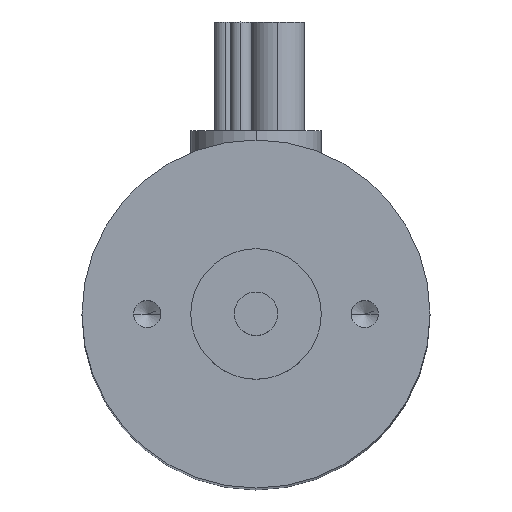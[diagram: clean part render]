
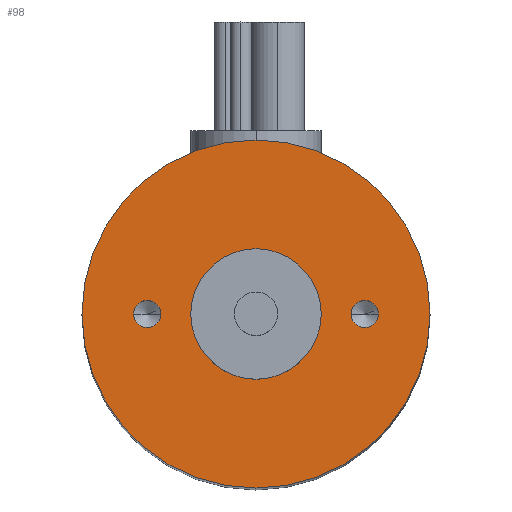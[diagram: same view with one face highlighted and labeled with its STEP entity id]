
A CAD part, top view. The second image highlights one B-rep face of the part: STEP entity #98.
In plain terms, the highlighted planar face has unit normal (0, 0, 1).
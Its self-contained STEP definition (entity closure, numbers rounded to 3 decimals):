
#15 = AXIS2_PLACEMENT_3D ( 'NONE', #662, #76, #20 ) ;
#16 = DIRECTION ( 'NONE',  ( -1., 0., 0. ) ) ;
#20 = DIRECTION ( 'NONE',  ( 1., 0., 0. ) ) ;
#23 = EDGE_LOOP ( 'NONE', ( #616, #391 ) ) ;
#31 = AXIS2_PLACEMENT_3D ( 'NONE', #776, #371, #286 ) ;
#42 = VERTEX_POINT ( 'NONE', #555 ) ;
#64 = FACE_BOUND ( 'NONE', #23, .T. ) ;
#75 = CIRCLE ( 'NONE', #350, 3. ) ;
#76 = DIRECTION ( 'NONE',  ( 0., 0., 1. ) ) ;
#79 = VERTEX_POINT ( 'NONE', #427 ) ;
#85 = VERTEX_POINT ( 'NONE', #374 ) ;
#98 = ADVANCED_FACE ( 'NONE', ( #283, #64, #763, #655 ), #638, .F. ) ;
#119 = CIRCLE ( 'NONE', #702, 8. ) ;
#127 = CARTESIAN_POINT ( 'NONE',  ( 0., 0., 0. ) ) ;
#150 = CARTESIAN_POINT ( 'NONE',  ( 8., 0., 0. ) ) ;
#167 = CARTESIAN_POINT ( 'NONE',  ( -4.375, 0., 0. ) ) ;
#170 = EDGE_CURVE ( 'NONE', #311, #497, #507, .T. ) ;
#172 = DIRECTION ( 'NONE',  ( 0., 0., 1. ) ) ;
#194 = AXIS2_PLACEMENT_3D ( 'NONE', #841, #431, #16 ) ;
#208 = ORIENTED_EDGE ( 'NONE', *, *, #700, .F. ) ;
#213 = CIRCLE ( 'NONE', #704, 0.625 ) ;
#221 = CARTESIAN_POINT ( 'NONE',  ( 4.375, 0., 0. ) ) ;
#224 = CIRCLE ( 'NONE', #15, 8. ) ;
#230 = DIRECTION ( 'NONE',  ( 0., 0., 1. ) ) ;
#261 = AXIS2_PLACEMENT_3D ( 'NONE', #478, #172, #876 ) ;
#274 = VERTEX_POINT ( 'NONE', #632 ) ;
#275 = CIRCLE ( 'NONE', #786, 3. ) ;
#279 = EDGE_LOOP ( 'NONE', ( #208, #668 ) ) ;
#281 = CARTESIAN_POINT ( 'NONE',  ( -5.625, 0., 0. ) ) ;
#283 = FACE_BOUND ( 'NONE', #556, .T. ) ;
#286 = DIRECTION ( 'NONE',  ( 1., 0., 0. ) ) ;
#288 = ORIENTED_EDGE ( 'NONE', *, *, #628, .T. ) ;
#295 = CARTESIAN_POINT ( 'NONE',  ( 0., 0., 0. ) ) ;
#304 = DIRECTION ( 'NONE',  ( 1., 0., 0. ) ) ;
#311 = VERTEX_POINT ( 'NONE', #281 ) ;
#331 = DIRECTION ( 'NONE',  ( 1., 0., 0. ) ) ;
#340 = DIRECTION ( 'NONE',  ( 0., 0., 1. ) ) ;
#350 = AXIS2_PLACEMENT_3D ( 'NONE', #295, #850, #304 ) ;
#361 = EDGE_CURVE ( 'NONE', #274, #85, #275, .T. ) ;
#365 = CARTESIAN_POINT ( 'NONE',  ( 5., 0., 0. ) ) ;
#371 = DIRECTION ( 'NONE',  ( 0., 0., 1. ) ) ;
#374 = CARTESIAN_POINT ( 'NONE',  ( 3., 0., 0. ) ) ;
#376 = AXIS2_PLACEMENT_3D ( 'NONE', #683, #599, #744 ) ;
#391 = ORIENTED_EDGE ( 'NONE', *, *, #870, .F. ) ;
#414 = EDGE_LOOP ( 'NONE', ( #288, #546 ) ) ;
#427 = CARTESIAN_POINT ( 'NONE',  ( 5.625, 0., 0. ) ) ;
#431 = DIRECTION ( 'NONE',  ( 0., 0., -1. ) ) ;
#478 = CARTESIAN_POINT ( 'NONE',  ( -5., 0., 0. ) ) ;
#497 = VERTEX_POINT ( 'NONE', #167 ) ;
#507 = CIRCLE ( 'NONE', #376, 0.625 ) ;
#538 = CIRCLE ( 'NONE', #31, 0.625 ) ;
#546 = ORIENTED_EDGE ( 'NONE', *, *, #647, .T. ) ;
#555 = CARTESIAN_POINT ( 'NONE',  ( -8., 0., 0. ) ) ;
#556 = EDGE_LOOP ( 'NONE', ( #775, #877 ) ) ;
#570 = DIRECTION ( 'NONE',  ( 1., 0., 0. ) ) ;
#599 = DIRECTION ( 'NONE',  ( 0., 0., 1. ) ) ;
#616 = ORIENTED_EDGE ( 'NONE', *, *, #757, .F. ) ;
#628 = EDGE_CURVE ( 'NONE', #636, #42, #224, .T. ) ;
#632 = CARTESIAN_POINT ( 'NONE',  ( -3., 0., 0. ) ) ;
#636 = VERTEX_POINT ( 'NONE', #150 ) ;
#638 = PLANE ( 'NONE',  #194 ) ;
#645 = DIRECTION ( 'NONE',  ( 0., 0., 1. ) ) ;
#647 = EDGE_CURVE ( 'NONE', #42, #636, #119, .T. ) ;
#655 = FACE_OUTER_BOUND ( 'NONE', #414, .T. ) ;
#661 = CIRCLE ( 'NONE', #261, 0.625 ) ;
#662 = CARTESIAN_POINT ( 'NONE',  ( 0., 0., 0. ) ) ;
#668 = ORIENTED_EDGE ( 'NONE', *, *, #361, .F. ) ;
#683 = CARTESIAN_POINT ( 'NONE',  ( -5., 0., 0. ) ) ;
#700 = EDGE_CURVE ( 'NONE', #85, #274, #75, .T. ) ;
#702 = AXIS2_PLACEMENT_3D ( 'NONE', #862, #230, #730 ) ;
#704 = AXIS2_PLACEMENT_3D ( 'NONE', #365, #645, #570 ) ;
#730 = DIRECTION ( 'NONE',  ( 1., 0., 0. ) ) ;
#744 = DIRECTION ( 'NONE',  ( 1., 0., 0. ) ) ;
#752 = VERTEX_POINT ( 'NONE', #221 ) ;
#757 = EDGE_CURVE ( 'NONE', #79, #752, #538, .T. ) ;
#763 = FACE_BOUND ( 'NONE', #279, .T. ) ;
#775 = ORIENTED_EDGE ( 'NONE', *, *, #896, .F. ) ;
#776 = CARTESIAN_POINT ( 'NONE',  ( 5., 0., 0. ) ) ;
#786 = AXIS2_PLACEMENT_3D ( 'NONE', #127, #340, #331 ) ;
#841 = CARTESIAN_POINT ( 'NONE',  ( 0., 3., 0. ) ) ;
#850 = DIRECTION ( 'NONE',  ( 0., 0., 1. ) ) ;
#862 = CARTESIAN_POINT ( 'NONE',  ( 0., 0., 0. ) ) ;
#870 = EDGE_CURVE ( 'NONE', #752, #79, #213, .T. ) ;
#876 = DIRECTION ( 'NONE',  ( 1., 0., 0. ) ) ;
#877 = ORIENTED_EDGE ( 'NONE', *, *, #170, .F. ) ;
#896 = EDGE_CURVE ( 'NONE', #497, #311, #661, .T. ) ;
